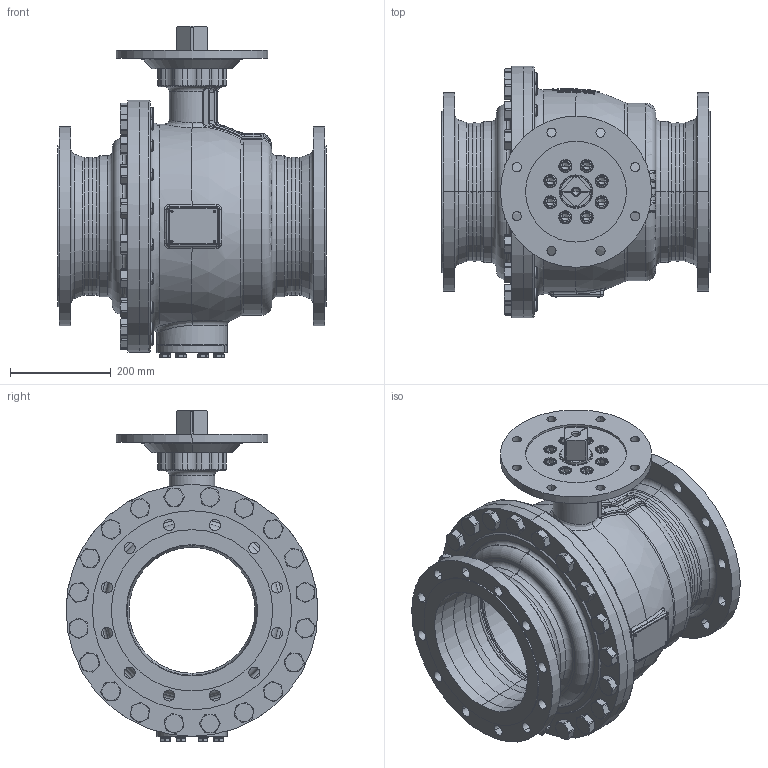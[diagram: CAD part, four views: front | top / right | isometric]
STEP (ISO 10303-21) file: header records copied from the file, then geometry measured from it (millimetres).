
FILE_DESCRIPTION((''),'2;1');
FILE_NAME('KHI-F_250_PN010-F25-4_SW0001','2026-02-05T14:27:10',('fischerkl'),('KLINGER'),'CREO PARAMETRIC BY PTC INC, 2023014','CREO PARAMETRIC BY PTC INC, 2023014','');
FILE_SCHEMA(('CONFIG_CONTROL_DESIGN'));
Products named in the file (1): KHI-F_250_PN010-F25-4_SW0001
Bounding box: 533 x 500 x 657.8 mm (x, y, z)
Volume: 22177196.6 mm3; surface area: 3441528.4 mm2
Topology: 1 solids, 4 shells, 3398 faces, 8637 edges, 5388 vertices
Faces by surface type: plane 1727, cylinder 806, cone 416, torus 310, bspline 97, sphere 42
Entity records: 139500 total; most frequent: CARTESIAN_POINT 58428, ORIENTED_EDGE 17198, DIRECTION 16700, EDGE_CURVE 8599, AXIS2_PLACEMENT_3D 6341, VERTEX_POINT 5388, VECTOR 4018, LINE 4018
